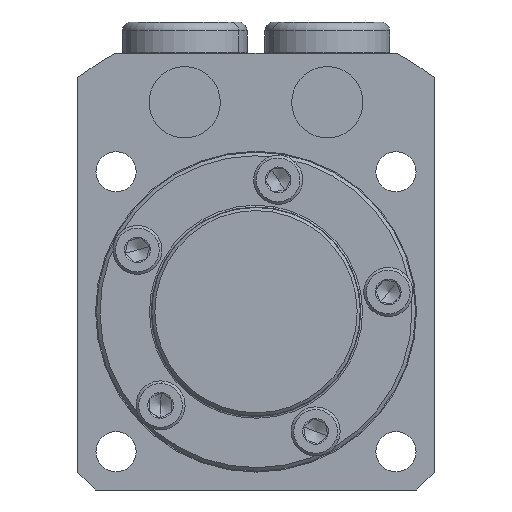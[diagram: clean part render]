
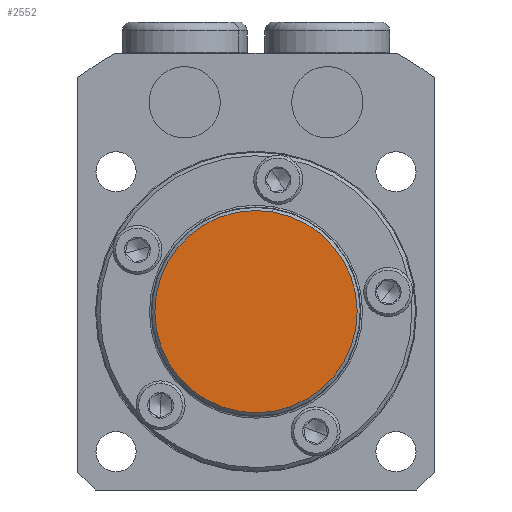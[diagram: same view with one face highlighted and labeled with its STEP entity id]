
A CAD part, front view. The second image highlights one B-rep face of the part: STEP entity #2552.
In plain terms, the highlighted planar face has unit normal (0, -1, 0).
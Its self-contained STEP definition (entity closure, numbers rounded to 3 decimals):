
#92 = EDGE_CURVE ( 'NONE', #6909, #6907, #1141, .T. ) ;
#1085 = AXIS2_PLACEMENT_3D ( 'NONE', #2781, #2793, #2794 ) ;
#1141 = CIRCLE ( 'NONE', #1144, 11.35 ) ;
#1144 = AXIS2_PLACEMENT_3D ( 'NONE', #1675, #1676, #1677 ) ;
#1675 = CARTESIAN_POINT ( 'NONE',  ( 0., -6., 0. ) ) ;
#1676 = DIRECTION ( 'NONE',  ( 0., -1., 0. ) ) ;
#1677 = DIRECTION ( 'NONE',  ( 0., 0., -1. ) ) ;
#2552 = ADVANCED_FACE ( 'NONE', ( #2789 ), #2790, .T. ) ;
#2639 = EDGE_CURVE ( 'NONE', #6907, #6909, #5874, .T. ) ;
#2781 = CARTESIAN_POINT ( 'NONE',  ( 0., -6., 0. ) ) ;
#2789 = FACE_OUTER_BOUND ( 'NONE', #3231, .T. ) ;
#2790 = PLANE ( 'NONE',  #1085 ) ;
#2793 = DIRECTION ( 'NONE',  ( 0., -1., 0. ) ) ;
#2794 = DIRECTION ( 'NONE',  ( 0., 0., -1. ) ) ;
#3175 = CARTESIAN_POINT ( 'NONE',  ( 0., -6., 0. ) ) ;
#3176 = DIRECTION ( 'NONE',  ( 0., -1., 0. ) ) ;
#3177 = DIRECTION ( 'NONE',  ( 0., 0., -1. ) ) ;
#3231 = EDGE_LOOP ( 'NONE', ( #4311, #4312 ) ) ;
#4311 = ORIENTED_EDGE ( 'NONE', *, *, #92, .T. ) ;
#4312 = ORIENTED_EDGE ( 'NONE', *, *, #2639, .T. ) ;
#5874 = CIRCLE ( 'NONE', #5880, 11.35 ) ;
#5880 = AXIS2_PLACEMENT_3D ( 'NONE', #3175, #3176, #3177 ) ;
#6223 = CARTESIAN_POINT ( 'NONE',  ( 0., -6., -11.35 ) ) ;
#6225 = CARTESIAN_POINT ( 'NONE',  ( 0., -6., 11.35 ) ) ;
#6907 = VERTEX_POINT ( 'NONE', #6223 ) ;
#6909 = VERTEX_POINT ( 'NONE', #6225 ) ;
